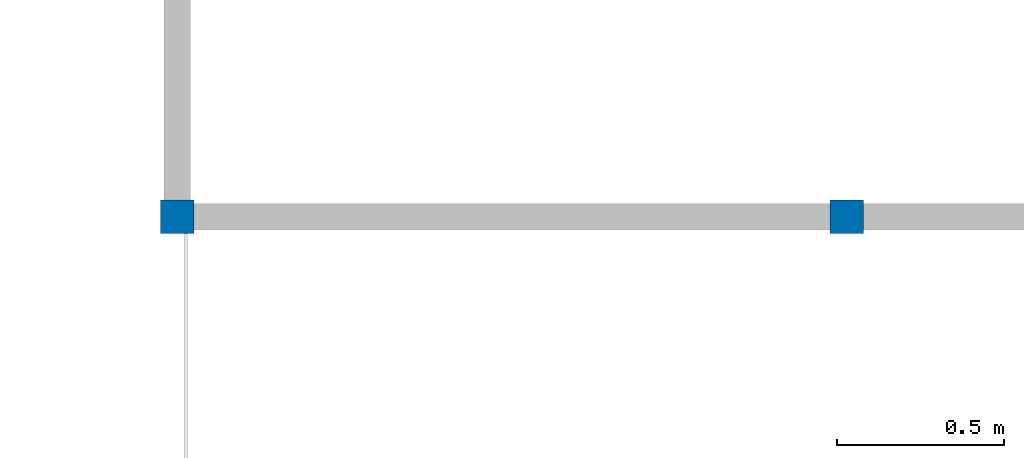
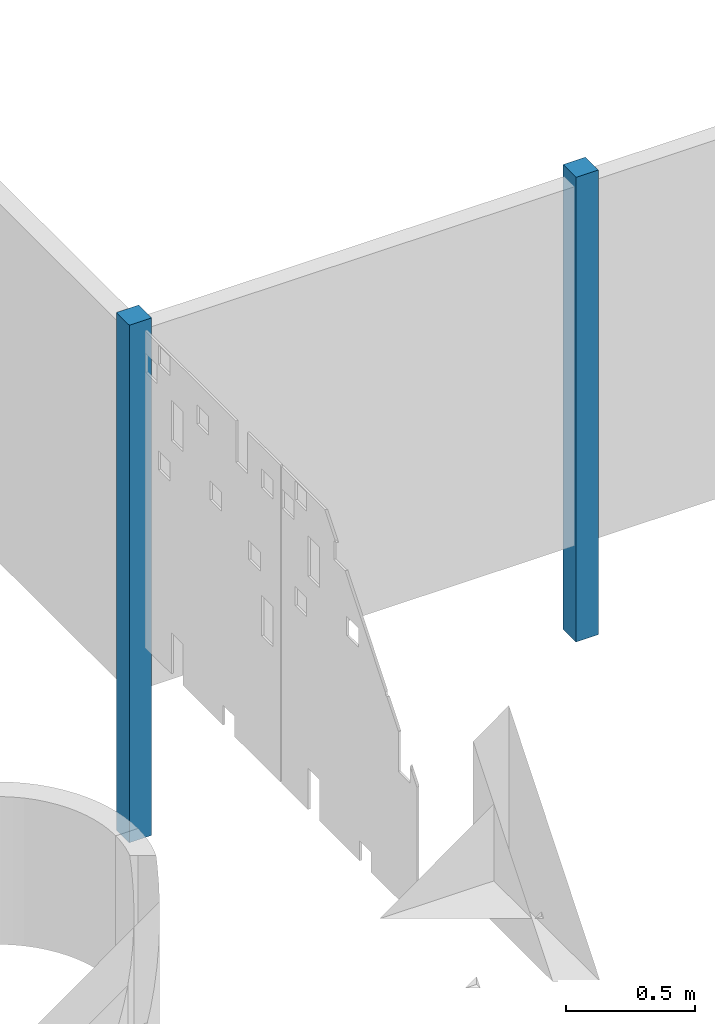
# One storey, part 4 of 64: 2 columns.
"""IFC2X3 building model written with IfcOpenShell, lengths in metres."""

from ifc_helpers import new_model, entity, si_unit, converted_unit, derived_unit, direction, frame, origin, origin_2d_with_axis, place, context, subcontext, project, spatial, rectangle, extrude, source, transform, mapped, material, type_object, type_shapes, element, save


model = new_model("IFC2X3")

# Units and contexts
model_context = context("Model", 3, precision=1e-05, world=origin(), true_north=direction((6.123031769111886e-17, 1.0)))
body_context = subcontext(model_context, "Body", "Model", "MODEL_VIEW")
ifc_project = project(units=[si_unit("LENGTHUNIT", "METRE"), si_unit("AREAUNIT", "SQUARE_METRE"), si_unit("VOLUMEUNIT", "CUBIC_METRE"), converted_unit("PLANEANGLEUNIT", "DEGREE", entity("IfcRatioMeasure", 0.017453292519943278), si_unit("PLANEANGLEUNIT", "RADIAN"), dimensions=[0, 0, 0, 0, 0, 0, 0]), si_unit("MASSUNIT", "GRAM", prefix="KILO"), derived_unit("MASSDENSITYUNIT", [(si_unit("MASSUNIT", "GRAM", prefix="KILO"), 1), (si_unit("LENGTHUNIT", "METRE"), -3)]), derived_unit("MOMENTOFINERTIAUNIT", [(si_unit("LENGTHUNIT", "METRE"), 4)]), si_unit("TIMEUNIT", "SECOND"), si_unit("FREQUENCYUNIT", "HERTZ"), si_unit("THERMODYNAMICTEMPERATUREUNIT", "DEGREE_CELSIUS"), derived_unit("THERMALTRANSMITTANCEUNIT", [(si_unit("MASSUNIT", "GRAM", prefix="KILO"), 1), (si_unit("THERMODYNAMICTEMPERATUREUNIT", "KELVIN"), -1), (si_unit("TIMEUNIT", "SECOND"), -3)]), derived_unit("THERMALCONDUCTANCEUNIT", [(si_unit("MASSUNIT", "GRAM", prefix="KILO"), 1), (si_unit("LENGTHUNIT", "METRE"), 1), (si_unit("THERMODYNAMICTEMPERATUREUNIT", "KELVIN"), -1), (si_unit("TIMEUNIT", "SECOND"), -3)]), derived_unit("VOLUMETRICFLOWRATEUNIT", [(si_unit("LENGTHUNIT", "METRE"), 3), (si_unit("TIMEUNIT", "SECOND"), -1)]), derived_unit("MASSFLOWRATEUNIT", [(si_unit("MASSUNIT", "GRAM", prefix="KILO"), 1), (si_unit("TIMEUNIT", "SECOND"), -1)]), derived_unit("ROTATIONALFREQUENCYUNIT", [(si_unit("TIMEUNIT", "SECOND"), -1)]), si_unit("ELECTRICCURRENTUNIT", "AMPERE"), si_unit("ELECTRICVOLTAGEUNIT", "VOLT"), si_unit("POWERUNIT", "WATT"), si_unit("FORCEUNIT", "NEWTON", prefix="KILO"), si_unit("ILLUMINANCEUNIT", "LUX"), si_unit("LUMINOUSFLUXUNIT", "LUMEN"), si_unit("LUMINOUSINTENSITYUNIT", "CANDELA"), derived_unit("USERDEFINED", [(si_unit("MASSUNIT", "GRAM", prefix="KILO"), -1), (si_unit("LENGTHUNIT", "METRE"), -2), (si_unit("TIMEUNIT", "SECOND"), 3), (si_unit("LUMINOUSFLUXUNIT", "LUMEN"), 1)]), derived_unit("USERDEFINED", [(si_unit("MASSUNIT", "GRAM", prefix="KILO"), 1), (si_unit("LENGTHUNIT", "METRE"), 3), (si_unit("TIMEUNIT", "SECOND"), -3), (si_unit("ELECTRICCURRENTUNIT", "AMPERE"), -2)]), derived_unit("USERDEFINED", [(si_unit("LENGTHUNIT", "METRE"), 2), (si_unit("TIMEUNIT", "SECOND"), -2)]), derived_unit("SOUNDPOWERUNIT", [(si_unit("MASSUNIT", "GRAM", prefix="KILO"), 1), (si_unit("LENGTHUNIT", "METRE"), 2), (si_unit("TIMEUNIT", "SECOND"), -3)]), derived_unit("SOUNDPRESSUREUNIT", [(si_unit("MASSUNIT", "GRAM", prefix="KILO"), 1), (si_unit("LENGTHUNIT", "METRE"), -1), (si_unit("TIMEUNIT", "SECOND"), -2)]), derived_unit("LINEARVELOCITYUNIT", [(si_unit("LENGTHUNIT", "METRE"), 1), (si_unit("TIMEUNIT", "SECOND"), -1)]), si_unit("PRESSUREUNIT", "PASCAL"), derived_unit("USERDEFINED", [(si_unit("LENGTHUNIT", "METRE"), -2), (si_unit("MASSUNIT", "GRAM", prefix="KILO"), 1), (si_unit("TIMEUNIT", "SECOND"), -2)]), derived_unit("LINEARFORCEUNIT", [(si_unit("MASSUNIT", "GRAM", prefix="KILO"), 1), (si_unit("LENGTHUNIT", "METRE"), 1), (si_unit("TIMEUNIT", "SECOND"), -2), (si_unit("LENGTHUNIT", "METRE"), -1)]), derived_unit("PLANARFORCEUNIT", [(si_unit("MASSUNIT", "GRAM", prefix="KILO"), 1), (si_unit("LENGTHUNIT", "METRE"), 1), (si_unit("TIMEUNIT", "SECOND"), -2), (si_unit("LENGTHUNIT", "METRE"), -2)]), derived_unit("SPECIFICHEATCAPACITYUNIT", [(si_unit("LENGTHUNIT", "METRE"), 2), (si_unit("TIMEUNIT", "SECOND"), -2), (si_unit("THERMODYNAMICTEMPERATUREUNIT", "KELVIN"), -1)]), derived_unit("VAPORPERMEABILITYUNIT", [(si_unit("TIMEUNIT", "SECOND"), 1), (si_unit("LENGTHUNIT", "METRE"), -1)]), derived_unit("DYNAMICVISCOSITYUNIT", [(si_unit("MASSUNIT", "GRAM", prefix="KILO"), 1), (si_unit("LENGTHUNIT", "METRE"), -1), (si_unit("TIMEUNIT", "SECOND"), -1)]), derived_unit("THERMALEXPANSIONCOEFFICIENTUNIT", [(si_unit("THERMODYNAMICTEMPERATUREUNIT", "KELVIN"), -1)])], contexts=[model_context])

# Site, building, storey
site_placement = place(None, origin())
site = spatial("IfcSite", under=ifc_project, at=site_placement, Name="Default", CompositionType="ELEMENT")
building_placement = place(site_placement, origin())
building = spatial("IfcBuilding", under=site, at=building_placement, CompositionType="ELEMENT")
storey_placement = place(building_placement, origin())
storey = spatial("IfcBuildingStorey", under=building, at=storey_placement, Name="REZ-DE-CHAUSSÉE", CompositionType="ELEMENT", Elevation=0.0)

# Columns
ifc_material = material(Name="Béton - Lissé")
column_type_1 = type_object("IfcColumnType", Name="Pot-011 135416:Pot-011 135416", PredefinedType="COLUMN", material=ifc_material)
shared_shape_1 = source(origin(), body_context, "Body", "SweptSolid", [
    extrude(rectangle(XDim=0.1, YDim=0.1, at=origin_2d_with_axis()), frame((0.0, 0.0, -1.1), z_axis=(0.0, 0.0, 1.0), x_axis=(0.0, -1.0, 0.0)), (0.0, 0.0, 1.0), 2.45),
])
type_shapes(column_type_1, [shared_shape_1])
column_1_placement = place(storey_placement, frame((113.53075228, 28.457209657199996, 0.0)))
element("IfcColumn", 1, at=column_1_placement, inside=storey, type_object=column_type_1, material=ifc_material, Name="Pot-011", ObjectType="Pot-011 135416:Pot-011 135416", context=body_context, shape_type="MappedRepresentation", body=[
    mapped(shared_shape_1, transform((0.0, 0.0, 0.0), scale=1.0)),
])
column_type_2 = type_object("IfcColumnType", Name="Pot-011 135416:Pot-011 135416", PredefinedType="COLUMN", material=ifc_material)
shared_shape_2 = source(origin(), body_context, "Body", "SweptSolid", [
    extrude(rectangle(XDim=0.1, YDim=0.1, at=origin_2d_with_axis()), frame((0.0, 0.0, -0.8500000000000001), z_axis=(0.0, 0.0, 1.0), x_axis=(0.0, -1.0, 0.0)), (0.0, 0.0, 1.0), 2.2),
])
type_shapes(column_type_2, [shared_shape_2])
column_2_placement = place(storey_placement, frame((115.53075227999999, 28.457209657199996, 0.0)))
element("IfcColumn", 2, at=column_2_placement, inside=storey, type_object=column_type_2, material=ifc_material, Name="Pot-011", ObjectType="Pot-011 135416:Pot-011 135416", context=body_context, shape_type="MappedRepresentation", body=[
    mapped(shared_shape_2, transform((0.0, 0.0, 0.0), scale=1.0)),
])

save(model, "model.ifc")
